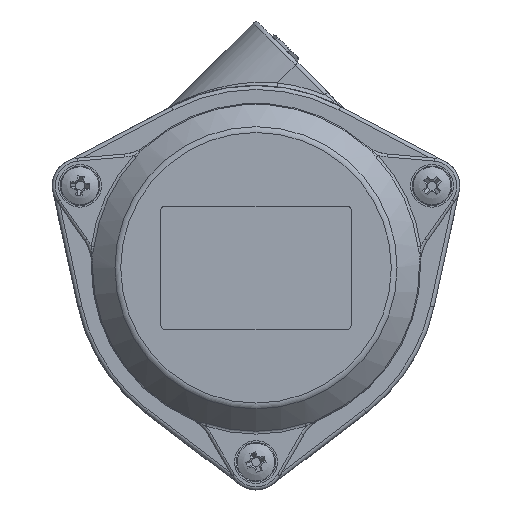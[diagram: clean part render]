
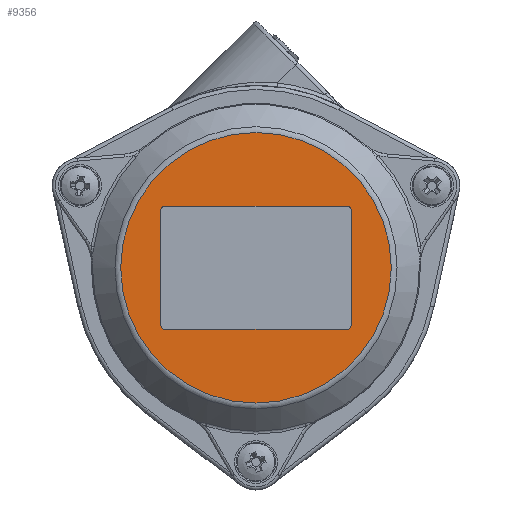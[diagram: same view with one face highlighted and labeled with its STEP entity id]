
A CAD part, top view. The second image highlights one B-rep face of the part: STEP entity #9356.
In plain terms, the highlighted planar face has unit normal (0, 0, 1).
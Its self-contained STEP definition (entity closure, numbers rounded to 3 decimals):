
#119=FACE_BOUND('',#2089,.T.);
#1092=PLANE('',#10076);
#1531=FACE_OUTER_BOUND('',#2088,.T.);
#2088=EDGE_LOOP('',(#7183));
#2089=EDGE_LOOP('',(#7184,#7185,#7186,#7187,#7188,#7189,#7190,#7191));
#2688=LINE('',#15000,#3258);
#2689=LINE('',#15004,#3259);
#2690=LINE('',#15008,#3260);
#2691=LINE('',#15011,#3261);
#3258=VECTOR('',#11617,10.);
#3259=VECTOR('',#11620,10.);
#3260=VECTOR('',#11623,10.);
#3261=VECTOR('',#11626,10.);
#3798=CIRCLE('',#10075,34.128);
#3799=CIRCLE('',#10077,1.);
#3800=CIRCLE('',#10078,1.);
#3801=CIRCLE('',#10079,1.);
#3802=CIRCLE('',#10080,1.);
#4428=VERTEX_POINT('',#14992);
#4429=VERTEX_POINT('',#14996);
#4430=VERTEX_POINT('',#14997);
#4431=VERTEX_POINT('',#14999);
#4432=VERTEX_POINT('',#15001);
#4433=VERTEX_POINT('',#15003);
#4434=VERTEX_POINT('',#15005);
#4435=VERTEX_POINT('',#15007);
#4436=VERTEX_POINT('',#15009);
#5425=EDGE_CURVE('',#4428,#4428,#3798,.T.);
#5426=EDGE_CURVE('',#4429,#4430,#3799,.T.);
#5427=EDGE_CURVE('',#4430,#4431,#2688,.T.);
#5428=EDGE_CURVE('',#4431,#4432,#3800,.T.);
#5429=EDGE_CURVE('',#4432,#4433,#2689,.T.);
#5430=EDGE_CURVE('',#4433,#4434,#3801,.T.);
#5431=EDGE_CURVE('',#4434,#4435,#2690,.T.);
#5432=EDGE_CURVE('',#4435,#4436,#3802,.T.);
#5433=EDGE_CURVE('',#4436,#4429,#2691,.T.);
#7183=ORIENTED_EDGE('',*,*,#5425,.F.);
#7184=ORIENTED_EDGE('',*,*,#5426,.T.);
#7185=ORIENTED_EDGE('',*,*,#5427,.T.);
#7186=ORIENTED_EDGE('',*,*,#5428,.T.);
#7187=ORIENTED_EDGE('',*,*,#5429,.T.);
#7188=ORIENTED_EDGE('',*,*,#5430,.T.);
#7189=ORIENTED_EDGE('',*,*,#5431,.T.);
#7190=ORIENTED_EDGE('',*,*,#5432,.T.);
#7191=ORIENTED_EDGE('',*,*,#5433,.T.);
#9356=ADVANCED_FACE('',(#1531,#119),#1092,.T.);
#10075=AXIS2_PLACEMENT_3D('',#14994,#11611,#11612);
#10076=AXIS2_PLACEMENT_3D('',#14995,#11613,#11614);
#10077=AXIS2_PLACEMENT_3D('',#14998,#11615,#11616);
#10078=AXIS2_PLACEMENT_3D('',#15002,#11618,#11619);
#10079=AXIS2_PLACEMENT_3D('',#15006,#11621,#11622);
#10080=AXIS2_PLACEMENT_3D('',#15010,#11624,#11625);
#11611=DIRECTION('center_axis',(0.,0.,
-1.));
#11612=DIRECTION('ref_axis',(1.,0.,0.));
#11613=DIRECTION('center_axis',(0.,0.,
1.));
#11614=DIRECTION('ref_axis',(0.,-1.,0.));
#11615=DIRECTION('center_axis',(0.,0.,
-1.));
#11616=DIRECTION('ref_axis',(0.,-1.,0.));
#11617=DIRECTION('',(1.,0.,0.));
#11618=DIRECTION('center_axis',(0.,0.,
-1.));
#11619=DIRECTION('ref_axis',(-1.,0.,0.));
#11620=DIRECTION('',(0.,-1.,0.));
#11621=DIRECTION('center_axis',(0.,0.,
-1.));
#11622=DIRECTION('ref_axis',(0.,1.,0.));
#11623=DIRECTION('',(-1.,0.,0.));
#11624=DIRECTION('center_axis',(0.,0.,
-1.));
#11625=DIRECTION('ref_axis',(1.,0.,0.));
#11626=DIRECTION('',(0.,1.,0.));
#14992=CARTESIAN_POINT('',(0.,-34.128,14.));
#14994=CARTESIAN_POINT('Origin',(0.,0.,
14.));
#14995=CARTESIAN_POINT('Origin',(17.064,0.,
14.));
#14996=CARTESIAN_POINT('',(-24.,14.5,14.));
#14997=CARTESIAN_POINT('',(-23.,15.5,14.));
#14998=CARTESIAN_POINT('Origin',(-23.,14.5,14.));
#14999=CARTESIAN_POINT('',(23.,15.5,14.));
#15000=CARTESIAN_POINT('',(20.032,15.5,14.));
#15001=CARTESIAN_POINT('',(24.,14.5,14.));
#15002=CARTESIAN_POINT('Origin',(23.,14.5,14.));
#15003=CARTESIAN_POINT('',(24.,-14.5,14.));
#15004=CARTESIAN_POINT('',(24.,-7.25,14.));
#15005=CARTESIAN_POINT('',(23.,-15.5,14.));
#15006=CARTESIAN_POINT('Origin',(23.,-14.5,14.));
#15007=CARTESIAN_POINT('',(-23.,-15.5,14.));
#15008=CARTESIAN_POINT('',(-2.968,-15.5,14.));
#15009=CARTESIAN_POINT('',(-24.,-14.5,14.));
#15010=CARTESIAN_POINT('Origin',(-23.,-14.5,14.));
#15011=CARTESIAN_POINT('',(-24.,7.25,14.));
